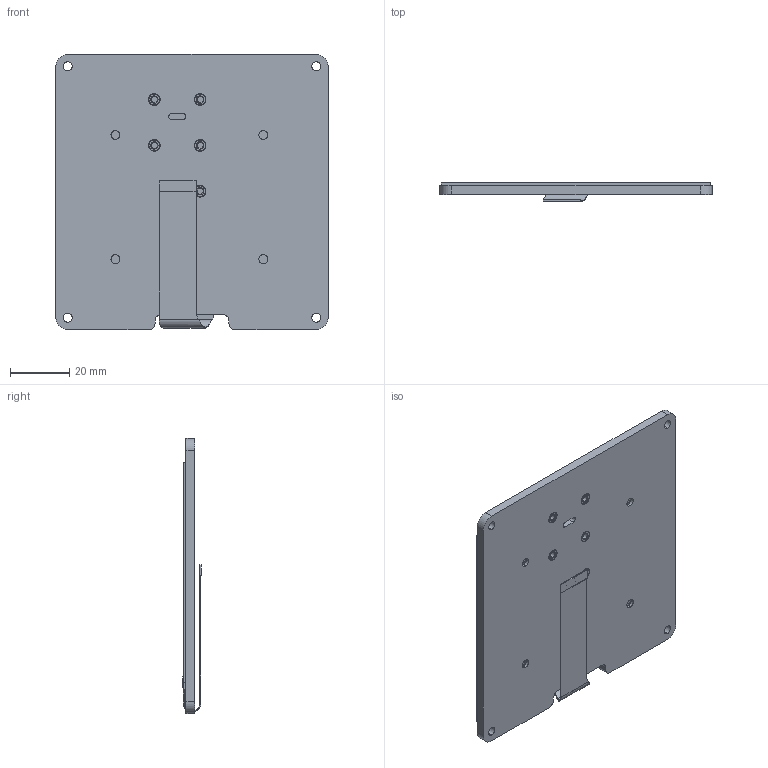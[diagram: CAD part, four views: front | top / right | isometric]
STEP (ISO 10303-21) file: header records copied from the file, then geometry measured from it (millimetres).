
FILE_DESCRIPTION (( 'STEP AP214' ), '1' );
FILE_NAME ('E2417KSC01.STEP', '2026-07-06T12:01:29', ( '' ), ( '' ), 'SwSTEP 2.0', 'SolidWorks 2008', '' );
FILE_SCHEMA (( 'AUTOMOTIVE_DESIGN' ));
Length unit declared in the file: millimetre
Products named in the file (4): plate-E2417KS0D1; E2417KS0D1; E2417KSC01; BN_1036_1385496
Assembly tree (7 placements, depth 2):
  E2417KSC01
    BN_1036_1385496  x5
    E2417KS0D1
    plate-E2417KS0D1
Bounding box: 92 x 6.2 x 93 mm (x, y, z)
Volume: 33709.7 mm3; surface area: 48646 mm2
Topology: 9 solids, 9 shells, 1162 faces, 3278 edges, 2174 vertices
Faces by surface type: cylinder 920, plane 211, cone 28, bspline 3
Entity records: 16466 total; most frequent: CARTESIAN_POINT 2984, DIRECTION 2468, ORIENTED_EDGE 2316, EDGE_CURVE 1158, AXIS2_PLACEMENT_3D 891, VERTEX_POINT 766, LINE 686, VECTOR 686
